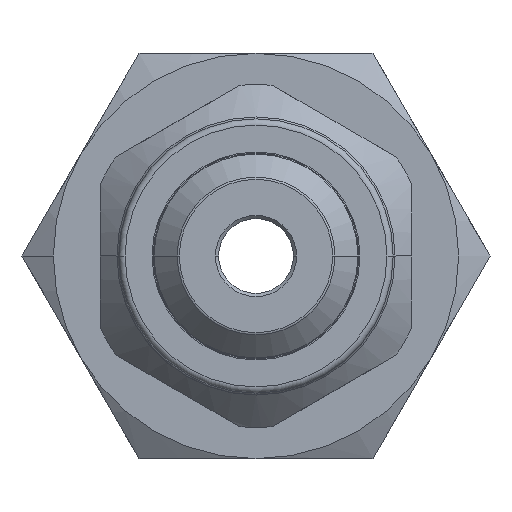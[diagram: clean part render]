
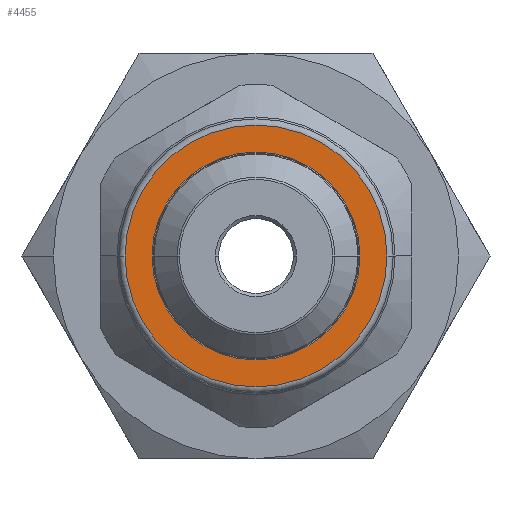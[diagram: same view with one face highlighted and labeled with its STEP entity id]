
A CAD part, front view. The second image highlights one B-rep face of the part: STEP entity #4455.
In plain terms, the highlighted planar face has unit normal (0, -1, 0).
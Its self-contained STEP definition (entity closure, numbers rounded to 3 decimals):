
#87 = CIRCLE ( 'NONE', #998, 4.2 ) ;
#275 = CARTESIAN_POINT ( 'NONE',  ( 4.4, -22.1, 0. ) ) ;
#401 = CIRCLE ( 'NONE', #3307, 3.333 ) ;
#748 = VERTEX_POINT ( 'NONE', #12363 ) ;
#920 = CARTESIAN_POINT ( 'NONE',  ( 0., -22.1, 0. ) ) ;
#998 = AXIS2_PLACEMENT_3D ( 'NONE', #5470, #5312, #7508 ) ;
#1750 = VERTEX_POINT ( 'NONE', #9671 ) ;
#2504 = CARTESIAN_POINT ( 'NONE',  ( 0., -22.1, 0. ) ) ;
#2687 = EDGE_CURVE ( 'NONE', #9394, #1750, #5098, .T. ) ;
#2918 = DIRECTION ( 'NONE',  ( 0., 1., 0. ) ) ;
#3307 = AXIS2_PLACEMENT_3D ( 'NONE', #920, #5550, #14766 ) ;
#3712 = DIRECTION ( 'NONE',  ( 1., 0., 0. ) ) ;
#4455 = ADVANCED_FACE ( 'NONE', ( #11644, #11568 ), #11791, .T. ) ;
#4742 = EDGE_LOOP ( 'NONE', ( #5508, #14773 ) ) ;
#4904 = DIRECTION ( 'NONE',  ( 0., 0., 1. ) ) ;
#5012 = EDGE_CURVE ( 'NONE', #748, #6150, #401, .T. ) ;
#5098 = CIRCLE ( 'NONE', #9929, 4.2 ) ;
#5312 = DIRECTION ( 'NONE',  ( 0., -1., 0. ) ) ;
#5470 = CARTESIAN_POINT ( 'NONE',  ( 0., -22.1, 0. ) ) ;
#5508 = ORIENTED_EDGE ( 'NONE', *, *, #7804, .T. ) ;
#5550 = DIRECTION ( 'NONE',  ( 0., 1., 0. ) ) ;
#5881 = ORIENTED_EDGE ( 'NONE', *, *, #2687, .T. ) ;
#6150 = VERTEX_POINT ( 'NONE', #14872 ) ;
#6939 = AXIS2_PLACEMENT_3D ( 'NONE', #13206, #2918, #11030 ) ;
#7508 = DIRECTION ( 'NONE',  ( -1., 0., 0. ) ) ;
#7804 = EDGE_CURVE ( 'NONE', #6150, #748, #13918, .T. ) ;
#7999 = ORIENTED_EDGE ( 'NONE', *, *, #14982, .T. ) ;
#9394 = VERTEX_POINT ( 'NONE', #14074 ) ;
#9671 = CARTESIAN_POINT ( 'NONE',  ( -4.2, -22.1, 0. ) ) ;
#9929 = AXIS2_PLACEMENT_3D ( 'NONE', #2504, #11751, #3712 ) ;
#10755 = AXIS2_PLACEMENT_3D ( 'NONE', #275, #14046, #4904 ) ;
#11030 = DIRECTION ( 'NONE',  ( 1., 0., 0. ) ) ;
#11568 = FACE_OUTER_BOUND ( 'NONE', #14720, .T. ) ;
#11644 = FACE_BOUND ( 'NONE', #4742, .T. ) ;
#11751 = DIRECTION ( 'NONE',  ( 0., -1., 0. ) ) ;
#11791 = PLANE ( 'NONE',  #10755 ) ;
#12363 = CARTESIAN_POINT ( 'NONE',  ( -3.333, -22.1, 0. ) ) ;
#13206 = CARTESIAN_POINT ( 'NONE',  ( 0., -22.1, 0. ) ) ;
#13918 = CIRCLE ( 'NONE', #6939, 3.333 ) ;
#14046 = DIRECTION ( 'NONE',  ( 0., -1., 0. ) ) ;
#14074 = CARTESIAN_POINT ( 'NONE',  ( 4.2, -22.1, 0. ) ) ;
#14720 = EDGE_LOOP ( 'NONE', ( #5881, #7999 ) ) ;
#14766 = DIRECTION ( 'NONE',  ( -1., 0., 0. ) ) ;
#14773 = ORIENTED_EDGE ( 'NONE', *, *, #5012, .T. ) ;
#14872 = CARTESIAN_POINT ( 'NONE',  ( 3.333, -22.1, 0. ) ) ;
#14982 = EDGE_CURVE ( 'NONE', #1750, #9394, #87, .T. ) ;
